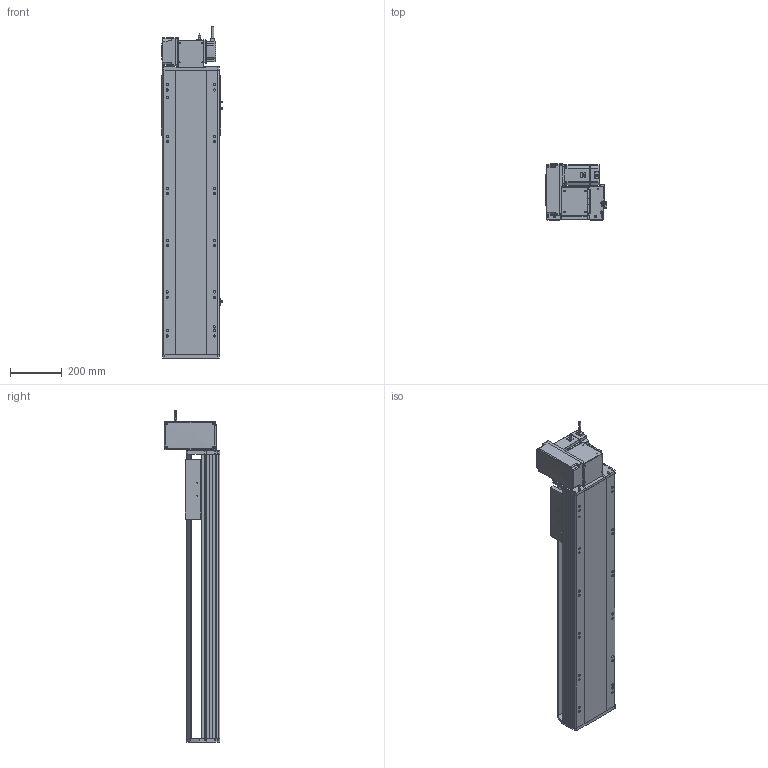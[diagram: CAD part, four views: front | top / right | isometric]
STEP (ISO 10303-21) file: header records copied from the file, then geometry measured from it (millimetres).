
FILE_DESCRIPTION (( 'STEP AP214' ), '1' );
FILE_NAME ('RTB22S-XX-750-LW-M75-C4.STEP', '2025-12-12T05:53:37', ( '' ), ( '' ), 'SwSTEP 2.0', 'SolidWorks 2018', '' );
FILE_SCHEMA (( 'AUTOMOTIVE_DESIGN' ));
Length unit declared in the file: millimetre
Products named in the file (14): RTB22S-GY-005P^RTB22S-LW-々湍釱蚾饜_RTB22S-XX-XX-LW-M75-C4; RTB22S-GY-008-M75--萇儂啣^RTB22S-LW-々湍釱蚾饜_RTB22S-XX-XX-LW-M75-C4; RTB22S-GY-018P^RTB22S-LW-々湍釱蚾饜_RTB22S-XX-XX-LW-M75-C4; RTB22S-L-011菁釱^RTB22S-XX-XX-LW-M75-C4; OMRON EE-SX672 传感器^RTB22S-XX-XX-LW-M75-C4; RTB22S-L-004賑釱^RTB22S-XX-XX-LW-M75-C4; RTB22S-GY-007奻裔^RTB22S-XX-XX-LW-M75-C4; RTB22S-GY-014--々湍釱^RTB22S-LW-々湍釱蚾饜_RTB22S-XX-XX-LW-M75-C4; RTB22S-GY-001耜裔^RTB22S-XX-XX-LW-M75-C4; RTH22-GY-013外置感应片^RTB22S-XX-XX-LW-M75-C4; 750W萇儂^RTB22S-XX-XX-LW-M75-C4; RTB22S-XX-750-LW-M75-C4; RTB22S-LW-々湍釱蚾饜^RTB22S-XX-XX-LW-M75-C4; RTB22S-GY-017P^RTB22S-LW-々湍釱蚾饜_RTB22S-XX-XX-LW-M75-C4
Assembly tree (16 placements, depth 3):
  RTB22S-XX-750-LW-M75-C4
    RTB22S-L-011菁釱^RTB22S-XX-XX-LW-M75-C4
    RTB22S-GY-001耜裔^RTB22S-XX-XX-LW-M75-C4
    750W萇儂^RTB22S-XX-XX-LW-M75-C4
    RTB22S-GY-007奻裔^RTB22S-XX-XX-LW-M75-C4
    RTB22S-L-004賑釱^RTB22S-XX-XX-LW-M75-C4
    RTH22-GY-013外置感应片^RTB22S-XX-XX-LW-M75-C4
    OMRON EE-SX672 传感器^RTB22S-XX-XX-LW-M75-C4  x3
    RTB22S-LW-々湍釱蚾饜^RTB22S-XX-XX-LW-M75-C4
      RTB22S-GY-014--々湍釱^RTB22S-LW-々湍釱蚾饜_RTB22S-XX-XX-LW-M75-C4
      RTB22S-GY-017P^RTB22S-LW-々湍釱蚾饜_RTB22S-XX-XX-LW-M75-C4  x2
      RTB22S-GY-005P^RTB22S-LW-々湍釱蚾饜_RTB22S-XX-XX-LW-M75-C4
      RTB22S-GY-008-M75--萇儂啣^RTB22S-LW-々湍釱蚾饜_RTB22S-XX-XX-LW-M75-C4
      RTB22S-GY-018P^RTB22S-LW-々湍釱蚾饜_RTB22S-XX-XX-LW-M75-C4
Bounding box: 238.5 x 215.5 x 1282.2 mm (x, y, z)
Volume: 18378065.8 mm3; surface area: 1924645.1 mm2
Topology: 15 solids, 15 shells, 1947 faces, 5286 edges, 3392 vertices
Faces by surface type: plane 911, cylinder 598, bspline 296, cone 130, sphere 8, torus 4
Entity records: 51452 total; most frequent: CARTESIAN_POINT 14876, ORIENTED_EDGE 7376, DIRECTION 7062, EDGE_CURVE 3688, AXIS2_PLACEMENT_3D 2478, VERTEX_POINT 2396, LINE 2106, VECTOR 2106
